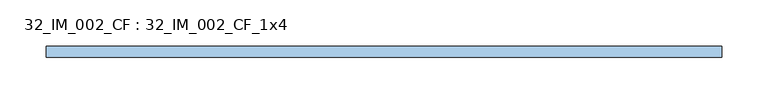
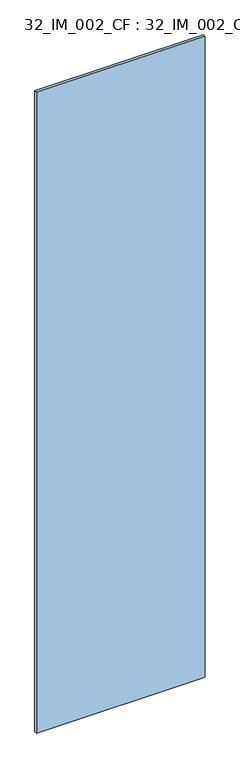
"""IFC4 building model written with IfcOpenShell, lengths in millimetres: window geometry, 32_IM_002_CF : 32_IM_002_CF_1x4."""

import ifcopenshell
import ifcopenshell.guid

model = None  # the IFC model being written
_history = None  # IfcOwnerHistory: only IFC2X3 demands one
_inside = {}  # id of a spatial element -> (the spatial element, [elements in it])
_under = {}  # id of a project, library or spatial element -> (it, [spatial elements below it])
_declared = {}  # id of a project -> (the project, [libraries it declares])
_typed = {}  # id of a type object -> (the type object, [elements of that type])
_made_of = {}  # id of a material, layer set ... -> (it, [elements and type objects made of it])


def new_model(schema):
    """Start an empty IFC model of exactly this schema.

    Asked for "IFC4X3", IfcOpenShell would pick the latest addendum, in which some entities
    have other attributes; the version numbers below select the first issue.
    IFC2X3 requires an IfcOwnerHistory on every rooted entity: one is made here for all.
    """
    global model, _history
    if schema == "IFC4X3":
        model = ifcopenshell.file(schema_version=(4, 3, 0, 0))
    else:
        model = ifcopenshell.file(schema=schema)
    _inside.clear()
    _under.clear()
    _declared.clear()
    _typed.clear()
    _made_of.clear()
    _history = None
    if model.schema == "IFC2X3":
        org = make("IfcOrganization", Name="unknown")
        user = make(
            "IfcPersonAndOrganization",
            ThePerson=make("IfcPerson", FamilyName="unknown"),
            TheOrganization=org,
        )
        app = make(
            "IfcApplication",
            ApplicationDeveloper=org,
            Version="unknown",
            ApplicationFullName="unknown",
            ApplicationIdentifier="unknown",
        )
        _history = make(
            "IfcOwnerHistory",
            OwningUser=user,
            OwningApplication=app,
            ChangeAction="ADDED",
            CreationDate=0,
        )
    return model


def make(cls, **values):
    """One entity of the class cls with the attributes given. An attribute that is None is left unset."""
    return model.create_entity(
        cls, **{name: value for name, value in values.items() if value is not None}
    )


def rooted(cls, **values):
    """An entity with a GlobalId (a new one), such as an element, a storey or a relation."""
    return make(cls, GlobalId=ifcopenshell.guid.new(), OwnerHistory=_history, **values)


def si_unit(unit_type, name, prefix=None):
    """IfcSIUnit, for example si_unit("LENGTHUNIT", "METRE", prefix="MILLI")."""
    return make("IfcSIUnit", UnitType=unit_type, Prefix=prefix, Name=name)


def assignment(units):
    """IfcUnitAssignment: the units of a project."""
    return None if units is None else make("IfcUnitAssignment", Units=units)


def point(xyz):
    """IfcCartesianPoint."""
    return None if xyz is None else make("IfcCartesianPoint", Coordinates=xyz)


def direction(xyz):
    """IfcDirection."""
    return None if xyz is None else make("IfcDirection", DirectionRatios=xyz)


def frame(location, z_axis=None, x_axis=None):
    """IfcAxis2Placement3D, a coordinate frame: its origin and axes. An axis left out is left unset."""
    return make(
        "IfcAxis2Placement3D",
        Location=point(location),
        Axis=direction(z_axis),
        RefDirection=direction(x_axis),
    )


def origin():
    """The frame at (0, 0, 0) with its axes left unset."""
    return frame((0.0, 0.0, 0.0))


def origin_with_axes():
    """The frame at (0, 0, 0) with the z axis (0, 0, 1) and the x axis (1, 0, 0) written out."""
    return frame((0.0, 0.0, 0.0), z_axis=(0.0, 0.0, 1.0), x_axis=(1.0, 0.0, 0.0))


def place(relative_to, where):
    """IfcLocalPlacement: puts the frame where relative to a parent placement (None: the world)."""
    return make(
        "IfcLocalPlacement", PlacementRelTo=relative_to, RelativePlacement=where
    )


def context(
    kind, dimensions, precision=None, world=None, true_north=None, identifier=None
):
    """IfcGeometricRepresentationContext, for example the 3D "Model" context."""
    return make(
        "IfcGeometricRepresentationContext",
        ContextIdentifier=identifier,
        ContextType=kind,
        CoordinateSpaceDimension=dimensions,
        Precision=precision,
        WorldCoordinateSystem=world,
        TrueNorth=true_north,
    )


def project(units=None, contexts=None):
    """IfcProject with its units and contexts."""
    return rooted(
        "IfcProject",
        Name="project",
        RepresentationContexts=contexts,
        UnitsInContext=assignment(units),
    )


def spatial(cls, under=None, at=None, **own):
    """A site, building, storey or space (cls), placed at a placement, below another one or the project."""
    s = rooted(cls, ObjectPlacement=at, **own)
    if under is not None:
        _under.setdefault(under.id(), (under, []))[1].append(s)
    return s


def polyline(points):
    """IfcPolyline through the points."""
    return make("IfcPolyline", Points=[point(p) for p in points])


def outline(outer, holes=None, kind="AREA"):
    """IfcArbitraryClosedProfileDef: a profile drawn as a closed curve; with holes, ...WithVoids."""
    if holes is None:
        return make("IfcArbitraryClosedProfileDef", ProfileType=kind, OuterCurve=outer)
    return make(
        "IfcArbitraryProfileDefWithVoids",
        ProfileType=kind,
        OuterCurve=outer,
        InnerCurves=holes,
    )


def extrude(swept, where, along, depth):
    """IfcExtrudedAreaSolid: the profile swept, set in the frame where, extruded along a direction by depth."""
    return make(
        "IfcExtrudedAreaSolid",
        SweptArea=swept,
        Position=where,
        ExtrudedDirection=direction(along),
        Depth=depth,
    )


def shape(context_of_items, identifier, shape_type, items):
    """IfcShapeRepresentation: the items that make up one representation, for example the "Body"."""
    return make(
        "IfcShapeRepresentation",
        ContextOfItems=context_of_items,
        RepresentationIdentifier=identifier,
        RepresentationType=shape_type,
        Items=items,
    )


def source(mapping_origin, context_of_items, identifier, shape_type, items):
    """IfcRepresentationMap: a shape defined once, which mapped items show again and again."""
    return make(
        "IfcRepresentationMap",
        MappingOrigin=mapping_origin,
        MappedRepresentation=shape(context_of_items, identifier, shape_type, items),
    )


def transform(
    local_origin,
    x_axis=None,
    y_axis=None,
    z_axis=None,
    scale=None,
    scale2=None,
    scale3=None,
    uniform=True,
):
    """IfcCartesianTransformationOperator3D, or its non-uniform kind. x_axis, y_axis, z_axis: its Axis1, 2, 3."""
    if uniform:
        return make(
            "IfcCartesianTransformationOperator3D",
            Axis1=direction(x_axis),
            Axis2=direction(y_axis),
            LocalOrigin=point(local_origin),
            Scale=scale,
            Axis3=direction(z_axis),
        )
    return make(
        "IfcCartesianTransformationOperator3DnonUniform",
        Axis1=direction(x_axis),
        Axis2=direction(y_axis),
        LocalOrigin=point(local_origin),
        Scale=scale,
        Axis3=direction(z_axis),
        Scale2=scale2,
        Scale3=scale3,
    )


def mapped(mapping_source, mapping_target):
    """IfcMappedItem: shows the shape of a source again, moved by a transform."""
    return make(
        "IfcMappedItem", MappingSource=mapping_source, MappingTarget=mapping_target
    )


def made_of(thing, what):
    """Note that an element or type object is made of a material, layer set ...; save() writes the relation."""
    if what is not None:
        _made_of.setdefault(what.id(), (what, []))[1].append(thing)
    return thing


def element(
    cls,
    number,
    at=None,
    inside=None,
    cuts=None,
    type_object=None,
    material=None,
    context=None,
    identifier="Body",
    shape_type=None,
    held_by="IfcProductDefinitionShape",
    body=None,
    shapes=None,
    **own,
):
    """One element of the class cls, such as IfcWall. Its Tag is "e" and its number.

    at: its placement. inside: the storey or other place that contains it. cuts: it is an
    opening in that element (IfcRelVoidsElement). A single representation is given by context,
    identifier, shape_type and body (its items); several are given by shapes. held_by: the class
    of the entity that holds the representations. save() writes the other relations.
    """
    e = rooted(cls, Tag="e%d" % number, ObjectPlacement=at, **own)
    if body is not None:
        shapes = [shape(context, identifier, shape_type, body)]
    if shapes is not None:
        e.Representation = make(held_by, Representations=shapes)
    if inside is not None:
        _inside.setdefault(inside.id(), (inside, []))[1].append(e)
    if cuts is not None:
        rooted(
            "IfcRelVoidsElement", RelatingBuildingElement=cuts, RelatedOpeningElement=e
        )
    if type_object is not None:
        _typed.setdefault(type_object.id(), (type_object, []))[1].append(e)
    return made_of(e, material)


def aggregate(whole, parts):
    """IfcRelAggregates: a whole, such as a stair, and the parts it consists of."""
    return rooted("IfcRelAggregates", RelatingObject=whole, RelatedObjects=parts)


def save(model, path):
    """Write the relations noted so far, then the file.

    IfcRelAggregates (storeys below a building ...), IfcRelContainedInSpatialStructure (elements
    in a storey), IfcRelDefinesByType, IfcRelAssociatesMaterial and IfcRelDeclares: one each for
    every whole, place, type object, material and project.
    """
    for whole, parts in _under.values():
        aggregate(whole, parts)
    for where, things in _inside.values():
        rooted(
            "IfcRelContainedInSpatialStructure",
            RelatedElements=things,
            RelatingStructure=where,
        )
    for kind, things in _typed.values():
        rooted("IfcRelDefinesByType", RelatedObjects=things, RelatingType=kind)
    for what, things in _made_of.values():
        rooted("IfcRelAssociatesMaterial", RelatedObjects=things, RelatingMaterial=what)
    for by, libraries in _declared.values():
        rooted("IfcRelDeclares", RelatingContext=by, RelatedDefinitions=libraries)
    model.write(path)


def window_32_im_002_cf_32_im_002_cf_1x4_72c7ee55(model_context):
    return source(origin(), model_context, "Body", "SweptSolid", [
        extrude(outline(polyline([(366.5000002, -6.0), (-366.5000002, -6.0), (-366.5000002, 6.0), (366.5000002, 6.0), (366.5000002, -6.0)])), origin_with_axes(), (0.0, 0.0, 1.0), 2945.0),
    ])


if __name__ == "__main__":
    model = new_model("IFC4")
    model_context = context("Model", 3, world=origin())
    ifc_project = project(units=[si_unit("LENGTHUNIT", "METRE", prefix="MILLI")], contexts=[model_context])
    site = spatial("IfcSite", under=ifc_project)
    building = spatial("IfcBuilding", under=site)
    placement = place(None, origin())
    window_32_im_002_cf_32_im_002_cf_1x4_shape = window_32_im_002_cf_32_im_002_cf_1x4_72c7ee55(model_context)
    element("IfcWindow", 1, ObjectType="32_IM_002_CF : 32_IM_002_CF_1x4", at=placement, inside=building, context=model_context, shape_type="MappedRepresentation", body=[
        mapped(window_32_im_002_cf_32_im_002_cf_1x4_shape, transform((0.0, 0.0, 0.0), x_axis=(1.0, 0.0, 0.0), y_axis=(0.0, 1.0, 0.0), z_axis=(0.0, 0.0, 1.0))),
    ])
    save(model, "model.ifc")
